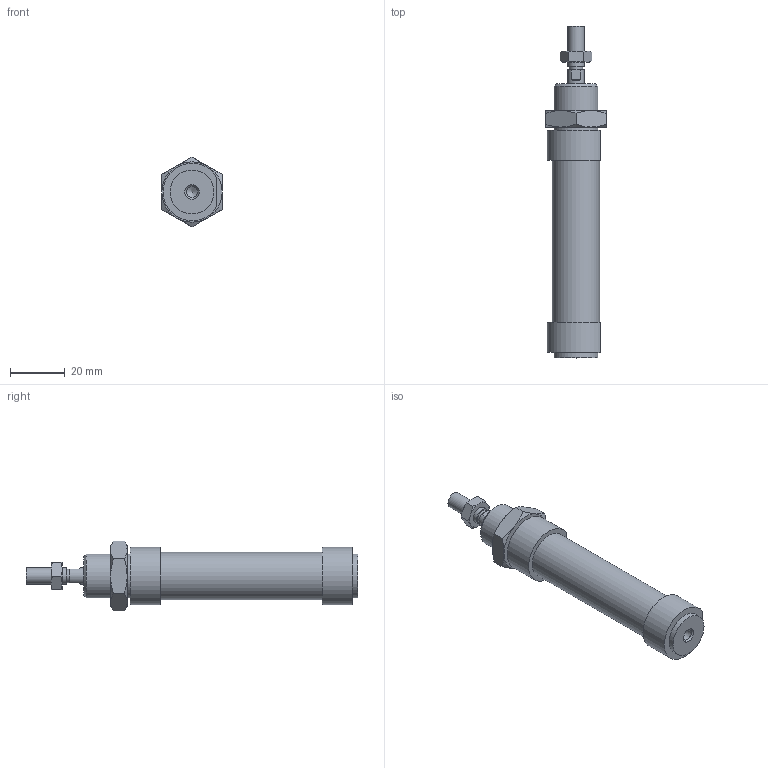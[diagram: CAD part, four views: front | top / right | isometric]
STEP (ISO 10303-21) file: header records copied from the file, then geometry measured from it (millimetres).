
FILE_DESCRIPTION((''),'2;1');
FILE_NAME('I:\Area Tecnica\Disegni\VARIE-3D\Componenti\1280\1281_##_####_#\1281_16_0025.iam.stp','2009-06-04T09:38:25',(''),(''),'Autodesk Inventor 2010','Autodesk Inventor 2010','');
FILE_SCHEMA(('AUTOMOTIVE_DESIGN { 1 0 10303 214 1 1 1 1 }'));
Length unit declared in the file: millimetre
Products named in the file (5): 1281_16_0025; C1281_16_25; S1280_16_25; 1200_16_05; 1200_16_06
Assembly tree (4 placements, depth 2):
  1281_16_0025
    C1281_16_25
    S1280_16_25
    1200_16_05
    1200_16_06
Bounding box: 22 x 121 x 25.4 mm (x, y, z)
Volume: 26961.6 mm3; surface area: 10563.2 mm2
Topology: 4 solids, 4 shells, 83 faces, 169 edges, 102 vertices
Faces by surface type: plane 34, cone 26, bspline 14, cylinder 9
Full cylindrical faces by diameter (mm): 5 x1, 6 x3, 16 x2, 17.2 x1
Entity records: 2370 total; most frequent: CARTESIAN_POINT 636, DIRECTION 314, ORIENTED_EDGE 284, AXIS2_PLACEMENT_3D 142, EDGE_CURVE 142, EDGE_LOOP 116, VERTEX_POINT 96, STYLED_ITEM 87
